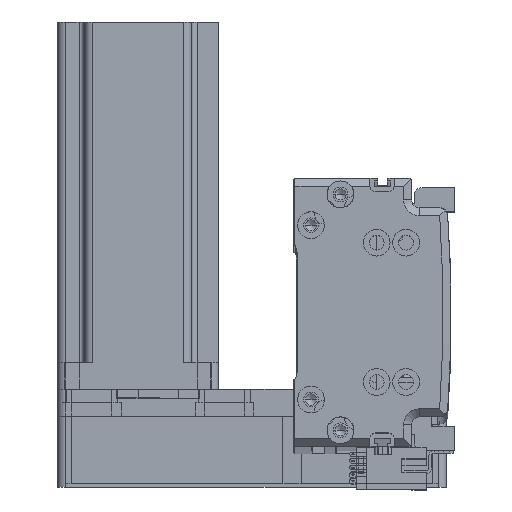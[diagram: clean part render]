
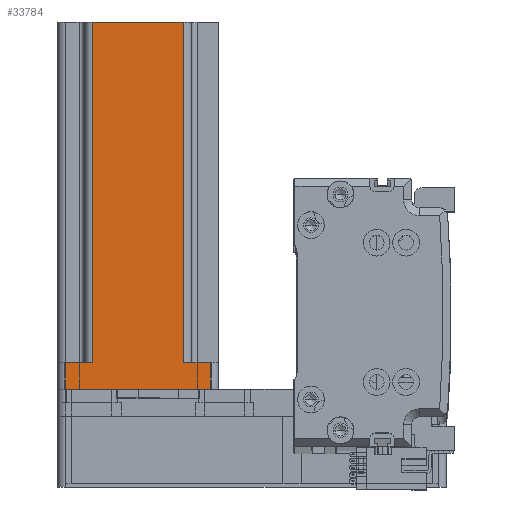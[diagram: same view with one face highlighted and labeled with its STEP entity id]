
A CAD part, top view. The second image highlights one B-rep face of the part: STEP entity #33784.
In plain terms, the highlighted planar face has unit normal (0, 0, 1) as drawn and (0, 1, 0) by its records, which use the part's own axes.
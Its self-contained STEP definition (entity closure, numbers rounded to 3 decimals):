
#1844 = ORIENTED_EDGE ( 'NONE', *, *, #46671, .T. ) ;
#2085 = VERTEX_POINT ( 'NONE', #19079 ) ;
#2566 = EDGE_CURVE ( 'NONE', #54270, #42235, #57211, .T. ) ;
#3366 = LINE ( 'NONE', #31318, #14293 ) ;
#3702 = ORIENTED_EDGE ( 'NONE', *, *, #42733, .T. ) ;
#4464 = VECTOR ( 'NONE', #23736, 1000. ) ;
#5559 = DIRECTION ( 'NONE',  ( -1., 0., 0. ) ) ;
#6077 = DIRECTION ( 'NONE',  ( 1., 0., 0. ) ) ;
#9114 = EDGE_CURVE ( 'NONE', #47138, #37434, #26956, .T. ) ;
#10878 = VECTOR ( 'NONE', #55349, 1000. ) ;
#11073 = CARTESIAN_POINT ( 'NONE',  ( 17., 30., 137. ) ) ;
#14293 = VECTOR ( 'NONE', #22202, 1000. ) ;
#14376 = PLANE ( 'NONE',  #31804 ) ;
#14599 = CARTESIAN_POINT ( 'NONE',  ( 30., 30., 137. ) ) ;
#15552 = CARTESIAN_POINT ( 'NONE',  ( 27., 30., 0. ) ) ;
#16194 = ORIENTED_EDGE ( 'NONE', *, *, #2566, .F. ) ;
#16669 = VERTEX_POINT ( 'NONE', #30691 ) ;
#17087 = VECTOR ( 'NONE', #26356, 1000. ) ;
#18589 = LINE ( 'NONE', #11073, #43149 ) ;
#19079 = CARTESIAN_POINT ( 'NONE',  ( 17., 30., 137. ) ) ;
#19111 = CARTESIAN_POINT ( 'NONE',  ( 30., 30., 137. ) ) ;
#19309 = DIRECTION ( 'NONE',  ( 1., 0., 0. ) ) ;
#19349 = CARTESIAN_POINT ( 'NONE',  ( -27., 30., 0. ) ) ;
#22202 = DIRECTION ( 'NONE',  ( 0., 0., 1. ) ) ;
#23736 = DIRECTION ( 'NONE',  ( -1., 0., 0. ) ) ;
#24022 = ORIENTED_EDGE ( 'NONE', *, *, #9114, .T. ) ;
#25964 = EDGE_LOOP ( 'NONE', ( #43343, #1844, #49203, #34165, #16194, #44962, #24022, #3702 ) ) ;
#26356 = DIRECTION ( 'NONE',  ( 0., 0., 1. ) ) ;
#26699 = CARTESIAN_POINT ( 'NONE',  ( 17., 30., 10. ) ) ;
#26956 = LINE ( 'NONE', #38442, #50037 ) ;
#30136 = LINE ( 'NONE', #57049, #54638 ) ;
#30691 = CARTESIAN_POINT ( 'NONE',  ( -17., 30., 10. ) ) ;
#31318 = CARTESIAN_POINT ( 'NONE',  ( -27., 30., 137. ) ) ;
#31804 = AXIS2_PLACEMENT_3D ( 'NONE', #14599, #46947, #19309 ) ;
#32706 = VECTOR ( 'NONE', #52074, 1000. ) ;
#33784 = ADVANCED_FACE ( 'NONE', ( #55874 ), #14376, .F. ) ;
#34165 = ORIENTED_EDGE ( 'NONE', *, *, #38276, .T. ) ;
#35563 = LINE ( 'NONE', #50650, #10878 ) ;
#37434 = VERTEX_POINT ( 'NONE', #19349 ) ;
#38276 = EDGE_CURVE ( 'NONE', #2085, #42235, #18589, .T. ) ;
#38442 = CARTESIAN_POINT ( 'NONE',  ( 30., 30., 0. ) ) ;
#39298 = EDGE_CURVE ( 'NONE', #2085, #45466, #41475, .T. ) ;
#41475 = LINE ( 'NONE', #19111, #4464 ) ;
#42235 = VERTEX_POINT ( 'NONE', #26699 ) ;
#42733 = EDGE_CURVE ( 'NONE', #37434, #52569, #3366, .T. ) ;
#43149 = VECTOR ( 'NONE', #43468, 1000. ) ;
#43343 = ORIENTED_EDGE ( 'NONE', *, *, #59395, .T. ) ;
#43468 = DIRECTION ( 'NONE',  ( 0., 0., -1. ) ) ;
#43791 = CARTESIAN_POINT ( 'NONE',  ( 27., 30., 10. ) ) ;
#44962 = ORIENTED_EDGE ( 'NONE', *, *, #57309, .T. ) ;
#45466 = VERTEX_POINT ( 'NONE', #59727 ) ;
#46671 = EDGE_CURVE ( 'NONE', #16669, #45466, #53915, .T. ) ;
#46947 = DIRECTION ( 'NONE',  ( 0., -1., 0. ) ) ;
#47035 = CARTESIAN_POINT ( 'NONE',  ( -27., 30., 10. ) ) ;
#47138 = VERTEX_POINT ( 'NONE', #15552 ) ;
#49203 = ORIENTED_EDGE ( 'NONE', *, *, #39298, .F. ) ;
#50037 = VECTOR ( 'NONE', #5559, 1000. ) ;
#50650 = CARTESIAN_POINT ( 'NONE',  ( 27., 30., 137. ) ) ;
#52074 = DIRECTION ( 'NONE',  ( -1., 0., 0. ) ) ;
#52569 = VERTEX_POINT ( 'NONE', #47035 ) ;
#53915 = LINE ( 'NONE', #53970, #17087 ) ;
#53970 = CARTESIAN_POINT ( 'NONE',  ( -17., 30., 137. ) ) ;
#54270 = VERTEX_POINT ( 'NONE', #43791 ) ;
#54638 = VECTOR ( 'NONE', #6077, 1000. ) ;
#55349 = DIRECTION ( 'NONE',  ( 0., 0., -1. ) ) ;
#55874 = FACE_OUTER_BOUND ( 'NONE', #25964, .T. ) ;
#56771 = CARTESIAN_POINT ( 'NONE',  ( 20., 30., 10. ) ) ;
#57049 = CARTESIAN_POINT ( 'NONE',  ( -20., 30., 10. ) ) ;
#57211 = LINE ( 'NONE', #56771, #32706 ) ;
#57309 = EDGE_CURVE ( 'NONE', #54270, #47138, #35563, .T. ) ;
#59395 = EDGE_CURVE ( 'NONE', #52569, #16669, #30136, .T. ) ;
#59727 = CARTESIAN_POINT ( 'NONE',  ( -17., 30., 137. ) ) ;
